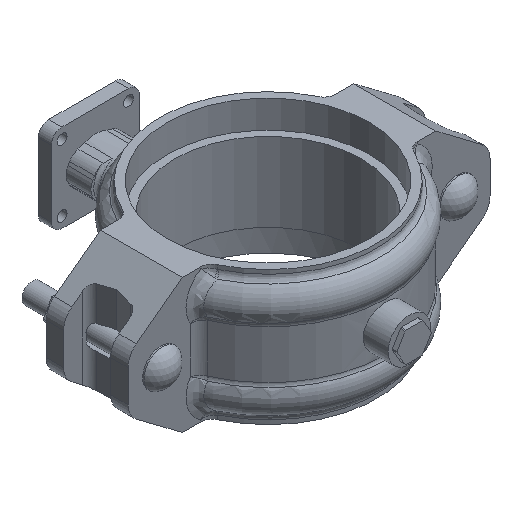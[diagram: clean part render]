
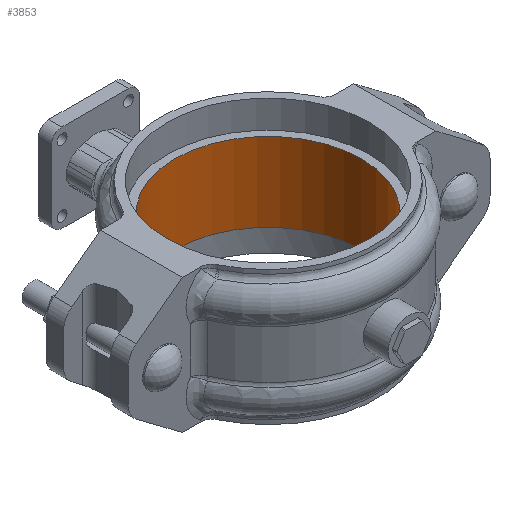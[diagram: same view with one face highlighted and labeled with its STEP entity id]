
A CAD part, isometric view. The second image highlights one B-rep face of the part: STEP entity #3853.
In plain terms, the highlighted cylindrical face has radius 101.219 mm (diameter 202.438 mm), a full revolution.
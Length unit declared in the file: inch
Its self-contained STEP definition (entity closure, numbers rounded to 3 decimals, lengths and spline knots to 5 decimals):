
#350=FACE_OUTER_BOUND('',#564,.T.);
#564=EDGE_LOOP('',(#2444,#2445,#2446,#2447));
#806=LINE('',#5461,#1078);
#1078=VECTOR('',#4458,3.985);
#1350=CIRCLE('',#4088,3.985);
#1351=CIRCLE('',#4089,3.985);
#1514=VERTEX_POINT('',#5458);
#1515=VERTEX_POINT('',#5460);
#1880=EDGE_CURVE('',#1514,#1514,#1350,.T.);
#1881=EDGE_CURVE('',#1514,#1515,#806,.T.);
#1882=EDGE_CURVE('',#1515,#1515,#1351,.T.);
#2444=ORIENTED_EDGE('',*,*,#1880,.F.);
#2445=ORIENTED_EDGE('',*,*,#1881,.T.);
#2446=ORIENTED_EDGE('',*,*,#1882,.F.);
#2447=ORIENTED_EDGE('',*,*,#1881,.F.);
#3572=CYLINDRICAL_SURFACE('',#4087,3.985);
#3853=ADVANCED_FACE('',(#350),#3572,.F.);
#4087=AXIS2_PLACEMENT_3D('',#5457,#4454,#4455);
#4088=AXIS2_PLACEMENT_3D('',#5459,#4456,#4457);
#4089=AXIS2_PLACEMENT_3D('',#5462,#4459,#4460);
#4454=DIRECTION('center_axis',(0.,0.,1.));
#4455=DIRECTION('ref_axis',(-1.,0.,0.));
#4456=DIRECTION('center_axis',(0.,0.,1.));
#4457=DIRECTION('ref_axis',(-1.,0.,0.));
#4458=DIRECTION('',(0.,0.,1.));
#4459=DIRECTION('center_axis',(0.,0.,-1.));
#4460=DIRECTION('ref_axis',(-1.,0.,0.));
#5457=CARTESIAN_POINT('Origin',(0.,0.,0.));
#5458=CARTESIAN_POINT('',(3.985,0.,-1.68));
#5459=CARTESIAN_POINT('Origin',(0.,0.,-1.68));
#5460=CARTESIAN_POINT('',(3.985,0.,1.68));
#5461=CARTESIAN_POINT('',(3.985,0.,0.));
#5462=CARTESIAN_POINT('Origin',(0.,0.,1.68));
